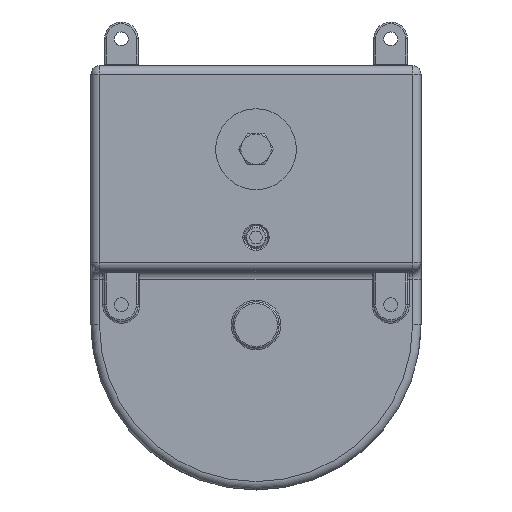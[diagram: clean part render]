
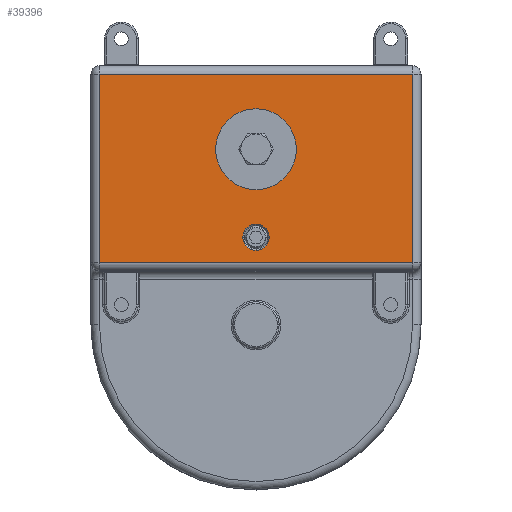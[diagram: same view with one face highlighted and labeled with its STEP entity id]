
A CAD part, top view. The second image highlights one B-rep face of the part: STEP entity #39396.
In plain terms, the highlighted planar face has unit normal (0, 0, 1).
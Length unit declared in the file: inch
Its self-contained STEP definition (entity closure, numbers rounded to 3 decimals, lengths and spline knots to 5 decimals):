
#257 = PLANE ( 'NONE',  #13732 ) ;
#527 = CARTESIAN_POINT ( 'NONE',  ( 2.90625, 1.40375, 1.75 ) ) ;
#889 = DIRECTION ( 'NONE',  ( 0., 0., 1. ) ) ;
#2596 = VERTEX_POINT ( 'NONE', #527 ) ;
#2663 = LINE ( 'NONE', #29212, #14362 ) ;
#2956 = ORIENTED_EDGE ( 'NONE', *, *, #15817, .F. ) ;
#3795 = DIRECTION ( 'NONE',  ( -1., 0., 0. ) ) ;
#4101 = DIRECTION ( 'NONE',  ( -1., 0., 0. ) ) ;
#4367 = DIRECTION ( 'NONE',  ( 1., 0., 0. ) ) ;
#4978 = VERTEX_POINT ( 'NONE', #5719 ) ;
#5517 = DIRECTION ( 'NONE',  ( 1., 0., 0. ) ) ;
#5719 = CARTESIAN_POINT ( 'NONE',  ( -2.90625, -2.09375, 1.75 ) ) ;
#7006 = ORIENTED_EDGE ( 'NONE', *, *, #19645, .T. ) ;
#7808 = VERTEX_POINT ( 'NONE', #21506 ) ;
#8303 = CARTESIAN_POINT ( 'NONE',  ( 0.564, 0., 1.75 ) ) ;
#8600 = LINE ( 'NONE', #37390, #29184 ) ;
#8613 = VECTOR ( 'NONE', #29217, 39.37008 ) ;
#9967 = CIRCLE ( 'NONE', #21608, 0.564 ) ;
#9993 = FACE_BOUND ( 'NONE', #11243, .T. ) ;
#10928 = CARTESIAN_POINT ( 'NONE',  ( -2.90625, 1.40375, 1.75 ) ) ;
#11243 = EDGE_LOOP ( 'NONE', ( #2956, #40868 ) ) ;
#11270 = ORIENTED_EDGE ( 'NONE', *, *, #25513, .T. ) ;
#11350 = EDGE_LOOP ( 'NONE', ( #17039, #11270 ) ) ;
#12316 = AXIS2_PLACEMENT_3D ( 'NONE', #19478, #36679, #4101 ) ;
#13090 = CARTESIAN_POINT ( 'NONE',  ( -0.24375, -1.625, 1.75 ) ) ;
#13429 = CARTESIAN_POINT ( 'NONE',  ( -0.564, 0., 1.75 ) ) ;
#13664 = VERTEX_POINT ( 'NONE', #8303 ) ;
#13732 = AXIS2_PLACEMENT_3D ( 'NONE', #17068, #889, #20284 ) ;
#13823 = CARTESIAN_POINT ( 'NONE',  ( 2.90625, -2.09375, 1.75 ) ) ;
#14362 = VECTOR ( 'NONE', #25977, 39.37008 ) ;
#14404 = EDGE_CURVE ( 'NONE', #7808, #30547, #28126, .T. ) ;
#14666 = DIRECTION ( 'NONE',  ( 0., 0., -1. ) ) ;
#14777 = EDGE_LOOP ( 'NONE', ( #34985, #14806, #7006, #35006 ) ) ;
#14806 = ORIENTED_EDGE ( 'NONE', *, *, #25738, .T. ) ;
#15274 = CARTESIAN_POINT ( 'NONE',  ( -2.90625, 1.40375, 1.75 ) ) ;
#15817 = EDGE_CURVE ( 'NONE', #30547, #7808, #29422, .T. ) ;
#16441 = VERTEX_POINT ( 'NONE', #13429 ) ;
#17039 = ORIENTED_EDGE ( 'NONE', *, *, #17431, .T. ) ;
#17068 = CARTESIAN_POINT ( 'NONE',  ( -2.90625, 1.40375, 1.75 ) ) ;
#17290 = VERTEX_POINT ( 'NONE', #13823 ) ;
#17431 = EDGE_CURVE ( 'NONE', #13664, #16441, #9967, .T. ) ;
#19478 = CARTESIAN_POINT ( 'NONE',  ( 0., -1.625, 1.75 ) ) ;
#19645 = EDGE_CURVE ( 'NONE', #4978, #17290, #8600, .T. ) ;
#19961 = DIRECTION ( 'NONE',  ( -1., 0., 0. ) ) ;
#20284 = DIRECTION ( 'NONE',  ( -1., 0., 0. ) ) ;
#21160 = AXIS2_PLACEMENT_3D ( 'NONE', #41126, #41964, #5517 ) ;
#21506 = CARTESIAN_POINT ( 'NONE',  ( 0.24375, -1.625, 1.75 ) ) ;
#21608 = AXIS2_PLACEMENT_3D ( 'NONE', #37425, #14666, #27734 ) ;
#21927 = CARTESIAN_POINT ( 'NONE',  ( 2.90625, 1.40375, 1.75 ) ) ;
#23059 = EDGE_CURVE ( 'NONE', #17290, #2596, #25762, .T. ) ;
#23958 = FACE_BOUND ( 'NONE', #11350, .T. ) ;
#25277 = CIRCLE ( 'NONE', #21160, 0.564 ) ;
#25513 = EDGE_CURVE ( 'NONE', #16441, #13664, #25277, .T. ) ;
#25738 = EDGE_CURVE ( 'NONE', #29767, #4978, #2663, .T. ) ;
#25762 = LINE ( 'NONE', #21927, #8613 ) ;
#25977 = DIRECTION ( 'NONE',  ( 0., -1., 0. ) ) ;
#27734 = DIRECTION ( 'NONE',  ( 1., 0., 0. ) ) ;
#28126 = CIRCLE ( 'NONE', #12316, 0.24375 ) ;
#29184 = VECTOR ( 'NONE', #4367, 39.37008 ) ;
#29212 = CARTESIAN_POINT ( 'NONE',  ( -2.90625, -2.25, 1.75 ) ) ;
#29217 = DIRECTION ( 'NONE',  ( 0., 1., 0. ) ) ;
#29422 = CIRCLE ( 'NONE', #33552, 0.24375 ) ;
#29767 = VERTEX_POINT ( 'NONE', #15274 ) ;
#30547 = VERTEX_POINT ( 'NONE', #13090 ) ;
#33552 = AXIS2_PLACEMENT_3D ( 'NONE', #36156, #39401, #3795 ) ;
#33944 = LINE ( 'NONE', #10928, #38929 ) ;
#34985 = ORIENTED_EDGE ( 'NONE', *, *, #38041, .T. ) ;
#35006 = ORIENTED_EDGE ( 'NONE', *, *, #23059, .T. ) ;
#36156 = CARTESIAN_POINT ( 'NONE',  ( 0., -1.625, 1.75 ) ) ;
#36209 = FACE_OUTER_BOUND ( 'NONE', #14777, .T. ) ;
#36679 = DIRECTION ( 'NONE',  ( 0., 0., 1. ) ) ;
#37390 = CARTESIAN_POINT ( 'NONE',  ( 3.0625, -2.09375, 1.75 ) ) ;
#37425 = CARTESIAN_POINT ( 'NONE',  ( 0., 0., 1.75 ) ) ;
#38041 = EDGE_CURVE ( 'NONE', #2596, #29767, #33944, .T. ) ;
#38929 = VECTOR ( 'NONE', #19961, 39.37008 ) ;
#39396 = ADVANCED_FACE ( 'NONE', ( #23958, #9993, #36209 ), #257, .T. ) ;
#39401 = DIRECTION ( 'NONE',  ( 0., 0., 1. ) ) ;
#40868 = ORIENTED_EDGE ( 'NONE', *, *, #14404, .F. ) ;
#41126 = CARTESIAN_POINT ( 'NONE',  ( 0., 0., 1.75 ) ) ;
#41964 = DIRECTION ( 'NONE',  ( 0., 0., -1. ) ) ;
